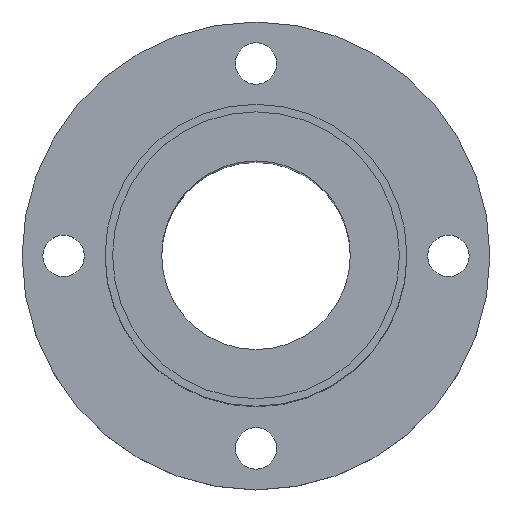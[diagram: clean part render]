
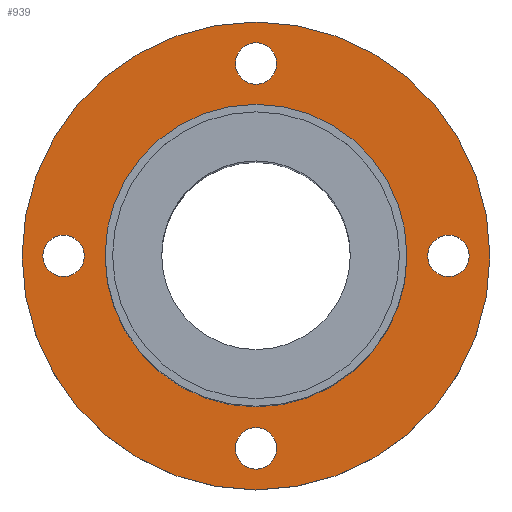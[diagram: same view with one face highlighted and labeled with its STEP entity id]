
A CAD part, top view. The second image highlights one B-rep face of the part: STEP entity #939.
In plain terms, the highlighted planar face has unit normal (0, 0, 1).
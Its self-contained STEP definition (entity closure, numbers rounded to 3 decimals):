
#49=CARTESIAN_POINT('',(-22.799,9.056,60.));
#50=VERTEX_POINT('',#49);
#59=CARTESIAN_POINT('',(17.201,9.056,60.));
#60=VERTEX_POINT('',#59);
#61=CARTESIAN_POINT('',(-2.799,9.056,60.));
#62=DIRECTION('',(0.0,0.0,1.0));
#63=DIRECTION('',(-1.0,0.0,0.0));
#64=AXIS2_PLACEMENT_3D('',#61,#62,#63);
#65=CIRCLE('',#64,20.0);
#66=EDGE_CURVE('',#50,#60,#65,.T.);
#259=CARTESIAN_POINT('',(-33.799,9.056,60.));
#260=VERTEX_POINT('',#259);
#269=CARTESIAN_POINT('',(28.201,9.056,60.));
#270=VERTEX_POINT('',#269);
#271=CARTESIAN_POINT('',(-2.799,9.056,60.));
#272=DIRECTION('',(0.0,0.0,-1.0));
#273=DIRECTION('',(-1.0,0.0,0.0));
#274=AXIS2_PLACEMENT_3D('',#271,#272,#273);
#275=CIRCLE('',#274,31.0);
#276=EDGE_CURVE('',#260,#270,#275,.T.);
#301=CARTESIAN_POINT('',(25.451,9.056,60.0));
#302=VERTEX_POINT('',#301);
#311=CARTESIAN_POINT('',(19.951,9.056,60.0));
#312=VERTEX_POINT('',#311);
#313=CARTESIAN_POINT('',(22.701,9.056,60.0));
#314=DIRECTION('',(0.0,0.0,-1.0));
#315=DIRECTION('',(1.0,0.0,0.0));
#316=AXIS2_PLACEMENT_3D('',#313,#314,#315);
#317=CIRCLE('',#316,2.75);
#318=EDGE_CURVE('',#312,#302,#317,.T.);
#385=CARTESIAN_POINT('',(-2.799,-19.194,60.0));
#386=VERTEX_POINT('',#385);
#395=CARTESIAN_POINT('',(-2.799,-13.694,60.0));
#396=VERTEX_POINT('',#395);
#397=CARTESIAN_POINT('',(-2.799,-16.444,60.0));
#398=DIRECTION('',(0.0,0.0,-1.0));
#399=DIRECTION('',(0.0,-1.0,0.0));
#400=AXIS2_PLACEMENT_3D('',#397,#398,#399);
#401=CIRCLE('',#400,2.75);
#402=EDGE_CURVE('',#396,#386,#401,.T.);
#469=CARTESIAN_POINT('',(-31.049,9.056,60.0));
#470=VERTEX_POINT('',#469);
#479=CARTESIAN_POINT('',(-25.549,9.056,60.0));
#480=VERTEX_POINT('',#479);
#481=CARTESIAN_POINT('',(-28.299,9.056,60.0));
#482=DIRECTION('',(0.0,0.0,-1.0));
#483=DIRECTION('',(-1.0,0.0,0.0));
#484=AXIS2_PLACEMENT_3D('',#481,#482,#483);
#485=CIRCLE('',#484,2.75);
#486=EDGE_CURVE('',#480,#470,#485,.T.);
#553=CARTESIAN_POINT('',(-2.799,37.306,60.0));
#554=VERTEX_POINT('',#553);
#563=CARTESIAN_POINT('',(-2.799,31.806,60.0));
#564=VERTEX_POINT('',#563);
#565=CARTESIAN_POINT('',(-2.799,34.556,60.0));
#566=DIRECTION('',(0.0,0.0,-1.0));
#567=DIRECTION('',(0.0,1.0,0.0));
#568=AXIS2_PLACEMENT_3D('',#565,#566,#567);
#569=CIRCLE('',#568,2.75);
#570=EDGE_CURVE('',#564,#554,#569,.T.);
#684=CARTESIAN_POINT('',(-2.799,34.556,60.0));
#685=DIRECTION('',(0.0,0.0,-1.0));
#686=DIRECTION('',(0.0,1.0,0.0));
#687=AXIS2_PLACEMENT_3D('',#684,#685,#686);
#688=CIRCLE('',#687,2.75);
#689=EDGE_CURVE('',#554,#564,#688,.T.);
#746=CARTESIAN_POINT('',(-28.299,9.056,60.0));
#747=DIRECTION('',(0.0,0.0,-1.0));
#748=DIRECTION('',(-1.0,0.0,0.0));
#749=AXIS2_PLACEMENT_3D('',#746,#747,#748);
#750=CIRCLE('',#749,2.75);
#751=EDGE_CURVE('',#470,#480,#750,.T.);
#808=CARTESIAN_POINT('',(-2.799,-16.444,60.0));
#809=DIRECTION('',(0.0,0.0,-1.0));
#810=DIRECTION('',(0.0,-1.0,0.0));
#811=AXIS2_PLACEMENT_3D('',#808,#809,#810);
#812=CIRCLE('',#811,2.75);
#813=EDGE_CURVE('',#386,#396,#812,.T.);
#870=CARTESIAN_POINT('',(22.701,9.056,60.0));
#871=DIRECTION('',(0.0,0.0,-1.0));
#872=DIRECTION('',(1.0,0.0,0.0));
#873=AXIS2_PLACEMENT_3D('',#870,#871,#872);
#874=CIRCLE('',#873,2.75);
#875=EDGE_CURVE('',#302,#312,#874,.T.);
#894=CARTESIAN_POINT('',(-2.799,9.056,60.));
#895=DIRECTION('',(0.0,0.0,-1.0));
#896=DIRECTION('',(-1.0,0.0,0.0));
#897=AXIS2_PLACEMENT_3D('',#894,#895,#896);
#898=CIRCLE('',#897,31.0);
#899=EDGE_CURVE('',#270,#260,#898,.T.);
#904=CARTESIAN_POINT('',(-2.799,9.056,60.));
#905=DIRECTION('',(0.0,0.0,-1.0));
#906=DIRECTION('',(-1.0,0.0,0.0));
#907=AXIS2_PLACEMENT_3D('',#904,#905,#906);
#908=PLANE('',#907);
#909=ORIENTED_EDGE('',*,*,#899,.F.);
#910=ORIENTED_EDGE('',*,*,#276,.F.);
#911=EDGE_LOOP('',(#909,#910));
#912=FACE_OUTER_BOUND('',#911,.T.);
#913=ORIENTED_EDGE('',*,*,#570,.T.);
#914=ORIENTED_EDGE('',*,*,#689,.T.);
#915=EDGE_LOOP('',(#913,#914));
#916=FACE_BOUND('',#915,.T.);
#917=ORIENTED_EDGE('',*,*,#486,.T.);
#918=ORIENTED_EDGE('',*,*,#751,.T.);
#919=EDGE_LOOP('',(#917,#918));
#920=FACE_BOUND('',#919,.T.);
#921=ORIENTED_EDGE('',*,*,#402,.T.);
#922=ORIENTED_EDGE('',*,*,#813,.T.);
#923=EDGE_LOOP('',(#921,#922));
#924=FACE_BOUND('',#923,.T.);
#925=ORIENTED_EDGE('',*,*,#318,.T.);
#926=ORIENTED_EDGE('',*,*,#875,.T.);
#927=EDGE_LOOP('',(#925,#926));
#928=FACE_BOUND('',#927,.T.);
#929=CARTESIAN_POINT('',(-2.799,9.056,60.));
#930=DIRECTION('',(0.0,0.0,1.0));
#931=DIRECTION('',(-1.0,0.0,0.0));
#932=AXIS2_PLACEMENT_3D('',#929,#930,#931);
#933=CIRCLE('',#932,20.0);
#934=EDGE_CURVE('',#60,#50,#933,.T.);
#935=ORIENTED_EDGE('',*,*,#934,.F.);
#936=ORIENTED_EDGE('',*,*,#66,.F.);
#937=EDGE_LOOP('',(#935,#936));
#938=FACE_BOUND('',#937,.T.);
#939=ADVANCED_FACE('',(#912,#916,#920,#924,#928,#938),#908,.F.);
